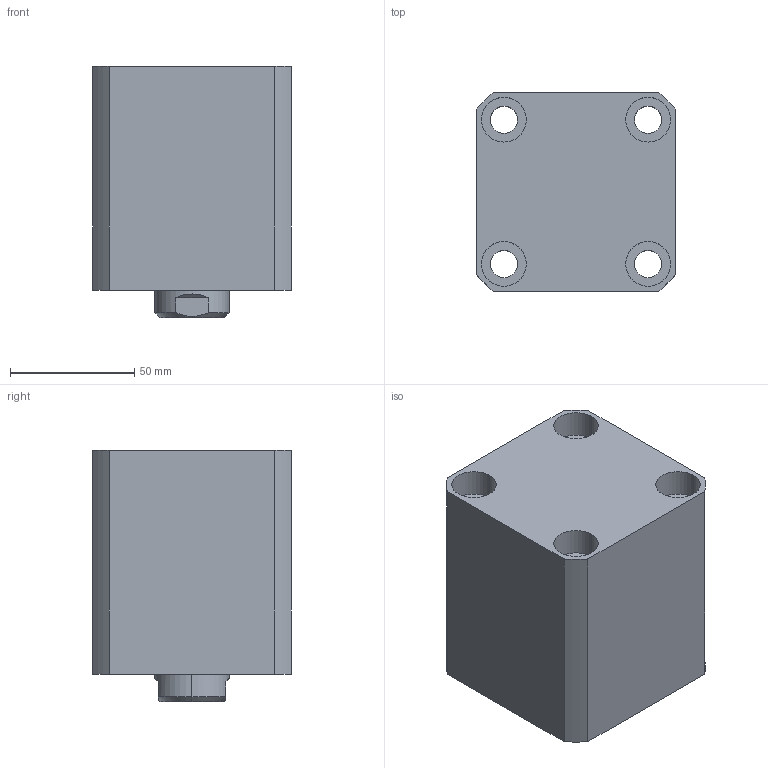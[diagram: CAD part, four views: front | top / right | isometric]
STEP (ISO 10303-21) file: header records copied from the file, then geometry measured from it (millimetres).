
FILE_DESCRIPTION (( 'STEP AP203' ), '1' );
FILE_NAME ('CHTB-SD50-30N.STEP', '2018-05-18T12:11:58', ( '' ), ( '' ), 'SwSTEP 2.0', 'SolidWorks 2015', '' );
FILE_SCHEMA (( 'CONFIG_CONTROL_DESIGN' ));
Length unit declared in the file: millimetre
Products named in the file (4): CHTB-SD50-30N; 活塞杆SD50-30N; CHTM-SD50QG; 掛极SD50-30N
Assembly tree (3 placements, depth 2):
  CHTB-SD50-30N
    掛极SD50-30N
    CHTM-SD50QG
    活塞杆SD50-30N
Bounding box: 80 x 80 x 101 mm (x, y, z)
Volume: 474326.9 mm3; surface area: 99169.3 mm2
Topology: 3 solids, 3 shells, 194 faces, 499 edges, 330 vertices
Faces by surface type: cylinder 104, plane 39, cone 21, torus 16, bspline 14
Entity records: 10789 total; most frequent: CARTESIAN_POINT 5840, ORIENTED_EDGE 986, DIRECTION 914, EDGE_CURVE 493, AXIS2_PLACEMENT_3D 383, VERTEX_POINT 330, EDGE_LOOP 233, CIRCLE 197
